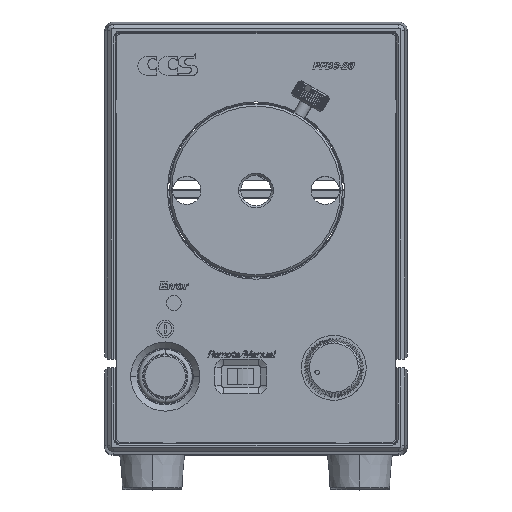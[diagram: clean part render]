
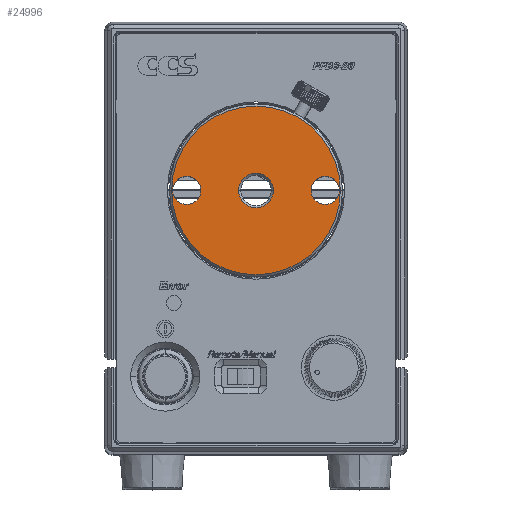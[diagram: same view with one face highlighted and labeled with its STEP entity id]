
A CAD part, top view. The second image highlights one B-rep face of the part: STEP entity #24996.
In plain terms, the highlighted planar face has unit normal (0, 0, 1).
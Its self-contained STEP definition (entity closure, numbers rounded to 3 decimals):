
#1577 = ORIENTED_EDGE ( 'NONE', *, *, #66214, .T. ) ;
#1613 = AXIS2_PLACEMENT_3D ( 'NONE', #68193, #13305, #68982 ) ;
#3205 = CARTESIAN_POINT ( 'NONE',  ( 0., 11., 91.801 ) ) ;
#3743 = DIRECTION ( 'NONE',  ( -1., 0., 0. ) ) ;
#4549 = ORIENTED_EDGE ( 'NONE', *, *, #65532, .T. ) ;
#4638 = EDGE_LOOP ( 'NONE', ( #50425, #8145 ) ) ;
#5777 = VERTEX_POINT ( 'NONE', #42546 ) ;
#6931 = CIRCLE ( 'NONE', #1613, 3.25 ) ;
#7054 = EDGE_CURVE ( 'NONE', #5777, #64202, #58809, .T. ) ;
#7801 = CARTESIAN_POINT ( 'NONE',  ( -19.5, 11., 91.801 ) ) ;
#8145 = ORIENTED_EDGE ( 'NONE', *, *, #36608, .F. ) ;
#9623 = CARTESIAN_POINT ( 'NONE',  ( 0., 11., 91.801 ) ) ;
#11134 = EDGE_CURVE ( 'NONE', #78860, #18070, #50156, .T. ) ;
#12514 = AXIS2_PLACEMENT_3D ( 'NONE', #64159, #27096, #40411 ) ;
#12557 = FACE_BOUND ( 'NONE', #4638, .T. ) ;
#13305 = DIRECTION ( 'NONE',  ( 0., 0., 1. ) ) ;
#17124 = AXIS2_PLACEMENT_3D ( 'NONE', #72565, #19303, #25364 ) ;
#18070 = VERTEX_POINT ( 'NONE', #41127 ) ;
#19303 = DIRECTION ( 'NONE',  ( 0., 0., 1. ) ) ;
#21635 = AXIS2_PLACEMENT_3D ( 'NONE', #66806, #42817, #42283 ) ;
#24996 = ADVANCED_FACE ( 'NONE', ( #47858, #55466, #70704, #12557 ), #75865, .F. ) ;
#25364 = DIRECTION ( 'NONE',  ( -1., 0., 0. ) ) ;
#25831 = DIRECTION ( 'NONE',  ( 1., 0., 0. ) ) ;
#26536 = ORIENTED_EDGE ( 'NONE', *, *, #62641, .T. ) ;
#27096 = DIRECTION ( 'NONE',  ( 0., 0., -1. ) ) ;
#27899 = DIRECTION ( 'NONE',  ( -1., 0., 0. ) ) ;
#28272 = CIRCLE ( 'NONE', #17124, 19.5 ) ;
#28662 = VERTEX_POINT ( 'NONE', #43145 ) ;
#30114 = DIRECTION ( 'NONE',  ( 1., 0., 0. ) ) ;
#31005 = EDGE_LOOP ( 'NONE', ( #1577, #4549 ) ) ;
#31589 = VERTEX_POINT ( 'NONE', #36825 ) ;
#33018 = EDGE_LOOP ( 'NONE', ( #26536, #37853 ) ) ;
#34429 = DIRECTION ( 'NONE',  ( -1., 0., 0. ) ) ;
#35740 = ORIENTED_EDGE ( 'NONE', *, *, #53084, .F. ) ;
#36154 = EDGE_LOOP ( 'NONE', ( #72795, #35740 ) ) ;
#36608 = EDGE_CURVE ( 'NONE', #56395, #28662, #75990, .T. ) ;
#36825 = CARTESIAN_POINT ( 'NONE',  ( 19.5, 11., 91.801 ) ) ;
#37853 = ORIENTED_EDGE ( 'NONE', *, *, #7054, .T. ) ;
#38095 = DIRECTION ( 'NONE',  ( 0., 0., 1. ) ) ;
#39947 = CIRCLE ( 'NONE', #21635, 3.25 ) ;
#40411 = DIRECTION ( 'NONE',  ( -1., 0., 0. ) ) ;
#40419 = VERTEX_POINT ( 'NONE', #7801 ) ;
#41127 = CARTESIAN_POINT ( 'NONE',  ( -19.25, 11., 91.801 ) ) ;
#42283 = DIRECTION ( 'NONE',  ( 1., 0., 0. ) ) ;
#42546 = CARTESIAN_POINT ( 'NONE',  ( -4., 11., 91.801 ) ) ;
#42817 = DIRECTION ( 'NONE',  ( 0., 0., 1. ) ) ;
#43145 = CARTESIAN_POINT ( 'NONE',  ( 19.25, 11., 91.801 ) ) ;
#44504 = CARTESIAN_POINT ( 'NONE',  ( -12.75, 11., 91.801 ) ) ;
#47858 = FACE_BOUND ( 'NONE', #33018, .T. ) ;
#48731 = AXIS2_PLACEMENT_3D ( 'NONE', #49860, #38095, #25831 ) ;
#49860 = CARTESIAN_POINT ( 'NONE',  ( -16., 11., 91.801 ) ) ;
#50156 = CIRCLE ( 'NONE', #48731, 3.25 ) ;
#50159 = CIRCLE ( 'NONE', #77937, 19.5 ) ;
#50425 = ORIENTED_EDGE ( 'NONE', *, *, #63836, .F. ) ;
#52033 = DIRECTION ( 'NONE',  ( 0., 0., -1. ) ) ;
#53084 = EDGE_CURVE ( 'NONE', #18070, #78860, #39947, .T. ) ;
#55466 = FACE_OUTER_BOUND ( 'NONE', #31005, .T. ) ;
#55709 = CIRCLE ( 'NONE', #78719, 4. ) ;
#56395 = VERTEX_POINT ( 'NONE', #70336 ) ;
#58809 = CIRCLE ( 'NONE', #61786, 4. ) ;
#61786 = AXIS2_PLACEMENT_3D ( 'NONE', #9623, #77042, #34429 ) ;
#62641 = EDGE_CURVE ( 'NONE', #64202, #5777, #55709, .T. ) ;
#63836 = EDGE_CURVE ( 'NONE', #28662, #56395, #6931, .T. ) ;
#64159 = CARTESIAN_POINT ( 'NONE',  ( 0., 31., 91.801 ) ) ;
#64202 = VERTEX_POINT ( 'NONE', #72124 ) ;
#64357 = CARTESIAN_POINT ( 'NONE',  ( 0., 11., 91.801 ) ) ;
#65532 = EDGE_CURVE ( 'NONE', #31589, #40419, #28272, .T. ) ;
#66214 = EDGE_CURVE ( 'NONE', #40419, #31589, #50159, .T. ) ;
#66639 = DIRECTION ( 'NONE',  ( 0., 0., 1. ) ) ;
#66806 = CARTESIAN_POINT ( 'NONE',  ( -16., 11., 91.801 ) ) ;
#68193 = CARTESIAN_POINT ( 'NONE',  ( 16., 11., 91.801 ) ) ;
#68982 = DIRECTION ( 'NONE',  ( 1., 0., 0. ) ) ;
#70336 = CARTESIAN_POINT ( 'NONE',  ( 12.75, 11., 91.801 ) ) ;
#70704 = FACE_BOUND ( 'NONE', #36154, .T. ) ;
#72124 = CARTESIAN_POINT ( 'NONE',  ( 4., 11., 91.801 ) ) ;
#72565 = CARTESIAN_POINT ( 'NONE',  ( 0., 11., 91.801 ) ) ;
#72795 = ORIENTED_EDGE ( 'NONE', *, *, #11134, .F. ) ;
#75865 = PLANE ( 'NONE',  #12514 ) ;
#75990 = CIRCLE ( 'NONE', #77453, 3.25 ) ;
#76623 = DIRECTION ( 'NONE',  ( 0., 0., 1. ) ) ;
#77042 = DIRECTION ( 'NONE',  ( 0., 0., -1. ) ) ;
#77453 = AXIS2_PLACEMENT_3D ( 'NONE', #78922, #66639, #30114 ) ;
#77937 = AXIS2_PLACEMENT_3D ( 'NONE', #64357, #76623, #27899 ) ;
#78719 = AXIS2_PLACEMENT_3D ( 'NONE', #3205, #52033, #3743 ) ;
#78860 = VERTEX_POINT ( 'NONE', #44504 ) ;
#78922 = CARTESIAN_POINT ( 'NONE',  ( 16., 11., 91.801 ) ) ;
